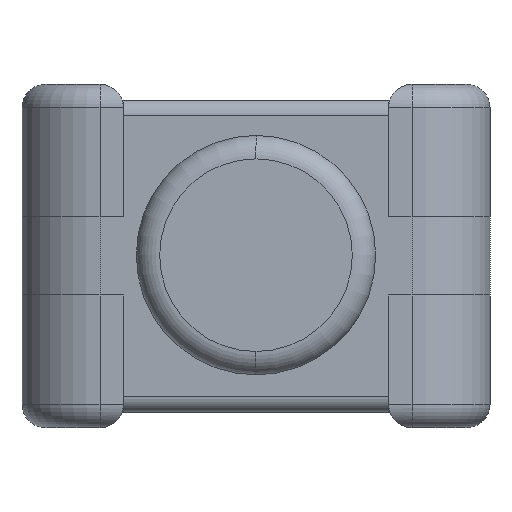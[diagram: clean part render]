
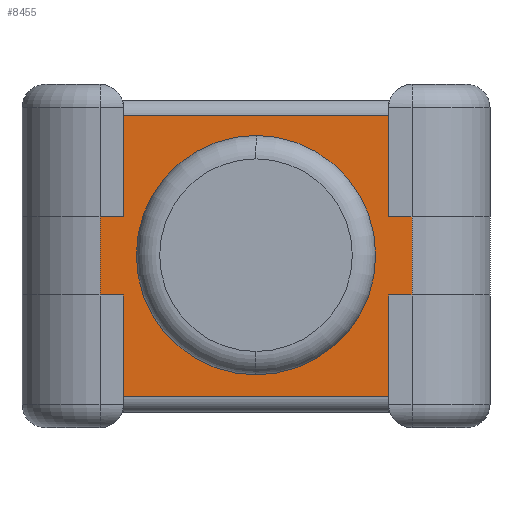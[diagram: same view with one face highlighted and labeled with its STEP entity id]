
A CAD part, front view. The second image highlights one B-rep face of the part: STEP entity #8455.
In plain terms, the highlighted planar face has unit normal (0, -1, 0).
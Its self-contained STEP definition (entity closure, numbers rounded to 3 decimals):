
#28 = EDGE_CURVE ( 'NONE', #2481, #10312, #5239, .T. ) ;
#89 = DIRECTION ( 'NONE',  ( 0., 0., -1. ) ) ;
#117 = AXIS2_PLACEMENT_3D ( 'NONE', #3410, #9914, #5953 ) ;
#227 = ORIENTED_EDGE ( 'NONE', *, *, #8375, .T. ) ;
#283 = ORIENTED_EDGE ( 'NONE', *, *, #1625, .T. ) ;
#427 = LINE ( 'NONE', #5573, #2916 ) ;
#472 = VERTEX_POINT ( 'NONE', #7839 ) ;
#504 = DIRECTION ( 'NONE',  ( 1., 0., 0. ) ) ;
#784 = DIRECTION ( 'NONE',  ( 0., 0., 1. ) ) ;
#853 = CARTESIAN_POINT ( 'NONE',  ( 20., -75., 25. ) ) ;
#855 = PLANE ( 'NONE',  #4500 ) ;
#949 = CARTESIAN_POINT ( 'NONE',  ( -17., -75., 25. ) ) ;
#995 = CARTESIAN_POINT ( 'NONE',  ( 17., -75., 38. ) ) ;
#1045 = EDGE_CURVE ( 'NONE', #10312, #6447, #7197, .T. ) ;
#1250 = LINE ( 'NONE', #5384, #4006 ) ;
#1385 = AXIS2_PLACEMENT_3D ( 'NONE', #8077, #4004, #8888 ) ;
#1418 = ORIENTED_EDGE ( 'NONE', *, *, #5037, .T. ) ;
#1494 = EDGE_CURVE ( 'NONE', #4490, #472, #10215, .T. ) ;
#1566 = CARTESIAN_POINT ( 'NONE',  ( -20., -75., 25. ) ) ;
#1625 = EDGE_CURVE ( 'NONE', #8620, #9829, #6795, .T. ) ;
#1748 = DIRECTION ( 'NONE',  ( 0., 1., 0. ) ) ;
#1902 = DIRECTION ( 'NONE',  ( 1., 0., 0. ) ) ;
#2460 = FACE_OUTER_BOUND ( 'NONE', #7665, .T. ) ;
#2481 = VERTEX_POINT ( 'NONE', #9278 ) ;
#2485 = LINE ( 'NONE', #10409, #3381 ) ;
#2603 = ORIENTED_EDGE ( 'NONE', *, *, #6683, .T. ) ;
#2916 = VECTOR ( 'NONE', #9561, 1000. ) ;
#3093 = DIRECTION ( 'NONE',  ( 0., 0., 1. ) ) ;
#3176 = CARTESIAN_POINT ( 'NONE',  ( -17., -75., 38. ) ) ;
#3304 = CARTESIAN_POINT ( 'NONE',  ( 20., -75., 40. ) ) ;
#3381 = VECTOR ( 'NONE', #784, 1000. ) ;
#3410 = CARTESIAN_POINT ( 'NONE',  ( 0., -75., 20.107 ) ) ;
#3574 = ORIENTED_EDGE ( 'NONE', *, *, #3834, .F. ) ;
#3685 = CARTESIAN_POINT ( 'NONE',  ( 17., -75., 2. ) ) ;
#3701 = ORIENTED_EDGE ( 'NONE', *, *, #9175, .F. ) ;
#3716 = DIRECTION ( 'NONE',  ( -1., 0., 0. ) ) ;
#3723 = VECTOR ( 'NONE', #504, 1000. ) ;
#3780 = ORIENTED_EDGE ( 'NONE', *, *, #6887, .F. ) ;
#3834 = EDGE_CURVE ( 'NONE', #6202, #8724, #427, .T. ) ;
#3856 = DIRECTION ( 'NONE',  ( 0., 0., -1. ) ) ;
#4004 = DIRECTION ( 'NONE',  ( 0., -1., 0. ) ) ;
#4006 = VECTOR ( 'NONE', #3093, 1000. ) ;
#4048 = CARTESIAN_POINT ( 'NONE',  ( -20., -75., 15. ) ) ;
#4184 = VERTEX_POINT ( 'NONE', #4240 ) ;
#4240 = CARTESIAN_POINT ( 'NONE',  ( -17., -75., 25. ) ) ;
#4490 = VERTEX_POINT ( 'NONE', #7114 ) ;
#4500 = AXIS2_PLACEMENT_3D ( 'NONE', #3304, #1748, #6518 ) ;
#4512 = VECTOR ( 'NONE', #4995, 1000. ) ;
#4691 = VECTOR ( 'NONE', #3856, 1000. ) ;
#4995 = DIRECTION ( 'NONE',  ( 1., 0., 0. ) ) ;
#5037 = EDGE_CURVE ( 'NONE', #5711, #7731, #6809, .T. ) ;
#5151 = EDGE_CURVE ( 'NONE', #5474, #5711, #8205, .T. ) ;
#5239 = LINE ( 'NONE', #9038, #9604 ) ;
#5384 = CARTESIAN_POINT ( 'NONE',  ( 17., -75., 25. ) ) ;
#5411 = EDGE_LOOP ( 'NONE', ( #10351, #6056 ) ) ;
#5474 = VERTEX_POINT ( 'NONE', #4048 ) ;
#5542 = VECTOR ( 'NONE', #3716, 1000. ) ;
#5573 = CARTESIAN_POINT ( 'NONE',  ( 17., -75., 15. ) ) ;
#5710 = CARTESIAN_POINT ( 'NONE',  ( 20., -75., 15. ) ) ;
#5711 = VERTEX_POINT ( 'NONE', #6835 ) ;
#5953 = DIRECTION ( 'NONE',  ( 0., 0., 1. ) ) ;
#5972 = FACE_BOUND ( 'NONE', #5411, .T. ) ;
#6049 = VECTOR ( 'NONE', #1902, 1000. ) ;
#6056 = ORIENTED_EDGE ( 'NONE', *, *, #10316, .F. ) ;
#6059 = CARTESIAN_POINT ( 'NONE',  ( 20., -75., 40. ) ) ;
#6087 = VECTOR ( 'NONE', #89, 1000. ) ;
#6202 = VERTEX_POINT ( 'NONE', #8017 ) ;
#6244 = LINE ( 'NONE', #949, #4512 ) ;
#6447 = VERTEX_POINT ( 'NONE', #5710 ) ;
#6518 = DIRECTION ( 'NONE',  ( 0., 0., 1. ) ) ;
#6605 = LINE ( 'NONE', #7928, #6087 ) ;
#6683 = EDGE_CURVE ( 'NONE', #2481, #8620, #1250, .T. ) ;
#6775 = CARTESIAN_POINT ( 'NONE',  ( -17., -75., 15. ) ) ;
#6795 = LINE ( 'NONE', #10062, #5542 ) ;
#6807 = CARTESIAN_POINT ( 'NONE',  ( 17., -75., 2. ) ) ;
#6809 = LINE ( 'NONE', #6998, #4691 ) ;
#6835 = CARTESIAN_POINT ( 'NONE',  ( -17., -75., 15. ) ) ;
#6887 = EDGE_CURVE ( 'NONE', #4184, #9829, #2485, .T. ) ;
#6998 = CARTESIAN_POINT ( 'NONE',  ( -17., -75., 15. ) ) ;
#7114 = CARTESIAN_POINT ( 'NONE',  ( 0., -75., 33.434 ) ) ;
#7197 = LINE ( 'NONE', #6059, #8345 ) ;
#7349 = VERTEX_POINT ( 'NONE', #1566 ) ;
#7664 = CARTESIAN_POINT ( 'NONE',  ( -17., -75., 2. ) ) ;
#7665 = EDGE_LOOP ( 'NONE', ( #1418, #8092, #3574, #227, #8944, #10082, #2603, #283, #3780, #3701, #9842, #9742 ) ) ;
#7731 = VERTEX_POINT ( 'NONE', #7664 ) ;
#7839 = CARTESIAN_POINT ( 'NONE',  ( 0., -75., 6.779 ) ) ;
#7928 = CARTESIAN_POINT ( 'NONE',  ( -20., -75., 40. ) ) ;
#8017 = CARTESIAN_POINT ( 'NONE',  ( 17., -75., 15. ) ) ;
#8077 = CARTESIAN_POINT ( 'NONE',  ( 0., -75., 20.107 ) ) ;
#8092 = ORIENTED_EDGE ( 'NONE', *, *, #9974, .T. ) ;
#8124 = VECTOR ( 'NONE', #9423, 1000. ) ;
#8205 = LINE ( 'NONE', #6775, #6049 ) ;
#8345 = VECTOR ( 'NONE', #9154, 1000. ) ;
#8375 = EDGE_CURVE ( 'NONE', #6202, #6447, #9859, .T. ) ;
#8444 = EDGE_CURVE ( 'NONE', #7349, #5474, #6605, .T. ) ;
#8455 = ADVANCED_FACE ( 'NONE', ( #2460, #5972 ), #855, .F. ) ;
#8620 = VERTEX_POINT ( 'NONE', #995 ) ;
#8724 = VERTEX_POINT ( 'NONE', #3685 ) ;
#8870 = LINE ( 'NONE', #6807, #3723 ) ;
#8888 = DIRECTION ( 'NONE',  ( 0., 0., 1. ) ) ;
#8944 = ORIENTED_EDGE ( 'NONE', *, *, #1045, .F. ) ;
#9038 = CARTESIAN_POINT ( 'NONE',  ( 30., -75., 25. ) ) ;
#9154 = DIRECTION ( 'NONE',  ( 0., 0., -1. ) ) ;
#9175 = EDGE_CURVE ( 'NONE', #7349, #4184, #6244, .T. ) ;
#9236 = CIRCLE ( 'NONE', #1385, 13.327 ) ;
#9278 = CARTESIAN_POINT ( 'NONE',  ( 17., -75., 25. ) ) ;
#9423 = DIRECTION ( 'NONE',  ( 1., 0., 0. ) ) ;
#9561 = DIRECTION ( 'NONE',  ( 0., 0., -1. ) ) ;
#9604 = VECTOR ( 'NONE', #9844, 1000. ) ;
#9742 = ORIENTED_EDGE ( 'NONE', *, *, #5151, .T. ) ;
#9829 = VERTEX_POINT ( 'NONE', #3176 ) ;
#9842 = ORIENTED_EDGE ( 'NONE', *, *, #8444, .T. ) ;
#9844 = DIRECTION ( 'NONE',  ( 1., 0., 0. ) ) ;
#9859 = LINE ( 'NONE', #10322, #8124 ) ;
#9914 = DIRECTION ( 'NONE',  ( 0., -1., 0. ) ) ;
#9974 = EDGE_CURVE ( 'NONE', #7731, #8724, #8870, .T. ) ;
#10062 = CARTESIAN_POINT ( 'NONE',  ( 20., -75., 38. ) ) ;
#10082 = ORIENTED_EDGE ( 'NONE', *, *, #28, .F. ) ;
#10215 = CIRCLE ( 'NONE', #117, 13.327 ) ;
#10312 = VERTEX_POINT ( 'NONE', #853 ) ;
#10316 = EDGE_CURVE ( 'NONE', #472, #4490, #9236, .T. ) ;
#10322 = CARTESIAN_POINT ( 'NONE',  ( 30., -75., 15. ) ) ;
#10351 = ORIENTED_EDGE ( 'NONE', *, *, #1494, .F. ) ;
#10409 = CARTESIAN_POINT ( 'NONE',  ( -17., -75., 25. ) ) ;
